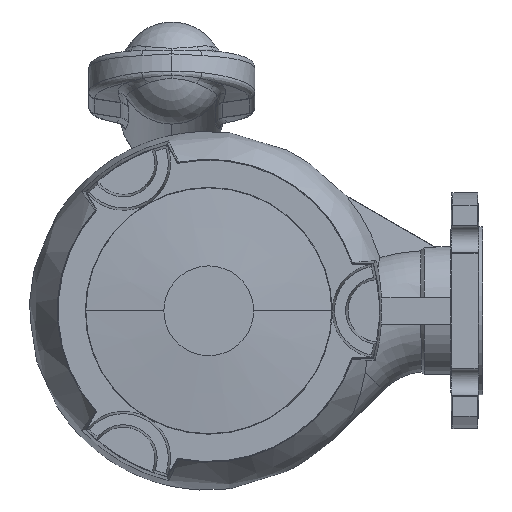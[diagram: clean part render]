
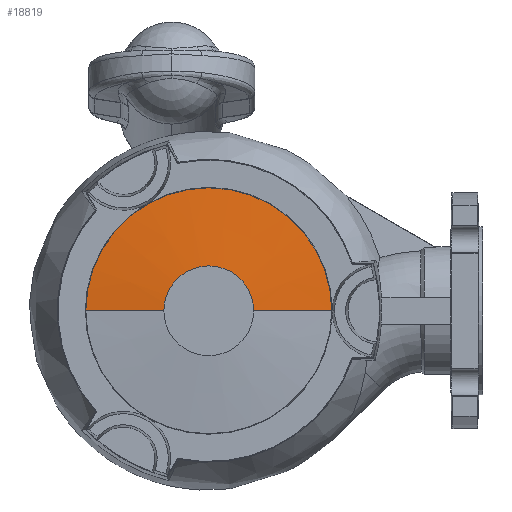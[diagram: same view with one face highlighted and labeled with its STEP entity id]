
A CAD part, front view. The second image highlights one B-rep face of the part: STEP entity #18819.
In plain terms, the highlighted conical face has half-angle 85 degrees and reference radius 20 mm.
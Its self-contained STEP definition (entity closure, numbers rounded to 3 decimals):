
#94 = VERTEX_POINT ( 'NONE', #5140 ) ;
#409 = VECTOR ( 'NONE', #22509, 1000. ) ;
#976 = EDGE_CURVE ( 'NONE', #14078, #94, #6798, .T. ) ;
#1370 = CARTESIAN_POINT ( 'NONE',  ( 20., 12., 0. ) ) ;
#1463 = VERTEX_POINT ( 'NONE', #12997 ) ;
#3390 = CARTESIAN_POINT ( 'NONE',  ( 0., 12., 0. ) ) ;
#3492 = CARTESIAN_POINT ( 'NONE',  ( -20., 12., 0. ) ) ;
#4749 = ORIENTED_EDGE ( 'NONE', *, *, #23493, .F. ) ;
#5078 = VECTOR ( 'NONE', #8972, 1000. ) ;
#5140 = CARTESIAN_POINT ( 'NONE',  ( 54.789, 15.044, 0. ) ) ;
#5367 = CARTESIAN_POINT ( 'NONE',  ( -20., 12., 0. ) ) ;
#5629 = EDGE_LOOP ( 'NONE', ( #4749, #19701, #7263, #7433 ) ) ;
#6798 = LINE ( 'NONE', #1370, #409 ) ;
#7263 = ORIENTED_EDGE ( 'NONE', *, *, #976, .T. ) ;
#7433 = ORIENTED_EDGE ( 'NONE', *, *, #21623, .F. ) ;
#8677 = AXIS2_PLACEMENT_3D ( 'NONE', #3390, #16523, #24387 ) ;
#8972 = DIRECTION ( 'NONE',  ( -0.996, 0.087, 0. ) ) ;
#12707 = AXIS2_PLACEMENT_3D ( 'NONE', #12886, #22932, #20742 ) ;
#12760 = FACE_OUTER_BOUND ( 'NONE', #5629, .T. ) ;
#12886 = CARTESIAN_POINT ( 'NONE',  ( 0., 12., 0. ) ) ;
#12997 = CARTESIAN_POINT ( 'NONE',  ( -54.789, 15.044, 0. ) ) ;
#13340 = LINE ( 'NONE', #5367, #5078 ) ;
#14078 = VERTEX_POINT ( 'NONE', #25303 ) ;
#14474 = EDGE_CURVE ( 'NONE', #22536, #14078, #21005, .T. ) ;
#15705 = CIRCLE ( 'NONE', #19390, 54.789 ) ;
#16523 = DIRECTION ( 'NONE',  ( 0., 1., 0. ) ) ;
#18775 = DIRECTION ( 'NONE',  ( 1., 0., 0. ) ) ;
#18819 = ADVANCED_FACE ( 'NONE', ( #12760 ), #23805, .T. ) ;
#19390 = AXIS2_PLACEMENT_3D ( 'NONE', #20737, #24729, #18775 ) ;
#19701 = ORIENTED_EDGE ( 'NONE', *, *, #14474, .T. ) ;
#20737 = CARTESIAN_POINT ( 'NONE',  ( 0., 15.044, 0. ) ) ;
#20742 = DIRECTION ( 'NONE',  ( 1., 0., 0. ) ) ;
#21005 = CIRCLE ( 'NONE', #8677, 20. ) ;
#21623 = EDGE_CURVE ( 'NONE', #1463, #94, #15705, .T. ) ;
#22509 = DIRECTION ( 'NONE',  ( 0.996, 0.087, 0. ) ) ;
#22536 = VERTEX_POINT ( 'NONE', #3492 ) ;
#22932 = DIRECTION ( 'NONE',  ( 0., 1., 0. ) ) ;
#23493 = EDGE_CURVE ( 'NONE', #22536, #1463, #13340, .T. ) ;
#23805 = CONICAL_SURFACE ( 'NONE', #12707, 20., 1.484 ) ;
#24387 = DIRECTION ( 'NONE',  ( 1., 0., 0. ) ) ;
#24729 = DIRECTION ( 'NONE',  ( 0., 1., 0. ) ) ;
#25303 = CARTESIAN_POINT ( 'NONE',  ( 20., 12., 0. ) ) ;
